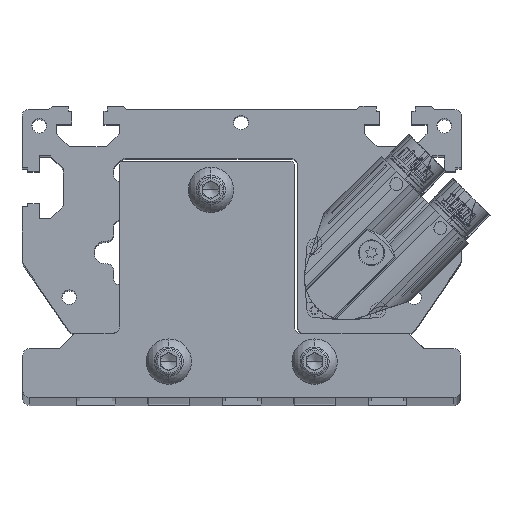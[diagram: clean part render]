
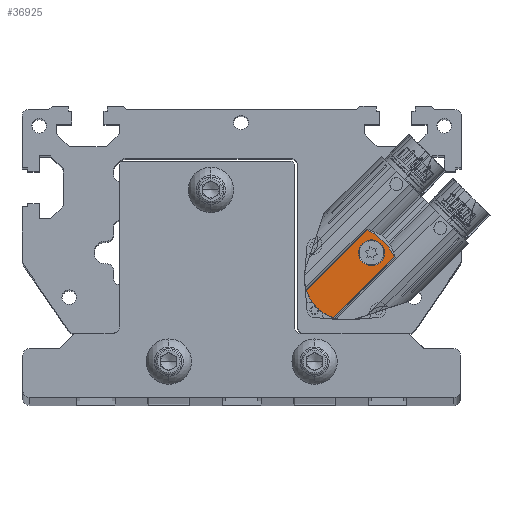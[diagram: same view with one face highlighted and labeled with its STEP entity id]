
A CAD part, top view. The second image highlights one B-rep face of the part: STEP entity #36925.
In plain terms, the highlighted planar face has unit normal (0, 0, 1).
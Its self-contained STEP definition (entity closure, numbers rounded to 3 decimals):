
#97 = EDGE_CURVE ( 'NONE', #30921, #30953, #22381, .T. ) ;
#99 = EDGE_CURVE ( 'NONE', #30953, #21910, #19927, .T. ) ;
#1862 = CARTESIAN_POINT ( 'NONE',  ( 13.735, 5.428, 18.8 ) ) ;
#1863 = DIRECTION ( 'NONE',  ( 0.707, 0.707, 0. ) ) ;
#1868 = CARTESIAN_POINT ( 'NONE',  ( 14.874, 6.567, 18.8 ) ) ;
#1869 = CARTESIAN_POINT ( 'NONE',  ( 14.421, 7.463, 18.8 ) ) ;
#1870 = CARTESIAN_POINT ( 'NONE',  ( 13.902, 8.311, 18.8 ) ) ;
#1871 = CARTESIAN_POINT ( 'NONE',  ( 12.741, 9.914, 18.8 ) ) ;
#1872 = CARTESIAN_POINT ( 'NONE',  ( 12.098, 10.67, 18.8 ) ) ;
#1873 = CARTESIAN_POINT ( 'NONE',  ( 11.037, 11.732, 18.8 ) ) ;
#1874 = CARTESIAN_POINT ( 'NONE',  ( 10.668, 12.073, 18.8 ) ) ;
#1875 = CARTESIAN_POINT ( 'NONE',  ( 9.909, 12.72, 18.8 ) ) ;
#1876 = CARTESIAN_POINT ( 'NONE',  ( 9.519, 13.027, 18.8 ) ) ;
#1877 = CARTESIAN_POINT ( 'NONE',  ( 8.312, 13.902, 18.8 ) ) ;
#1878 = CARTESIAN_POINT ( 'NONE',  ( 7.463, 14.421, 18.8 ) ) ;
#1879 = CARTESIAN_POINT ( 'NONE',  ( 6.567, 14.874, 18.8 ) ) ;
#6809 = EDGE_CURVE ( 'NONE', #31205, #31227, #29604, .T. ) ;
#6909 = EDGE_CURVE ( 'NONE', #21910, #22001, #29723, .T. ) ;
#8309 = EDGE_CURVE ( 'NONE', #30921, #22001, #29862, .T. ) ;
#8310 = EDGE_CURVE ( 'NONE', #31227, #31205, #29863, .T. ) ;
#12479 = CARTESIAN_POINT ( 'NONE',  ( 0., 0., 18.8 ) ) ;
#12480 = DIRECTION ( 'NONE',  ( 0., 0., -1. ) ) ;
#12481 = DIRECTION ( 'NONE',  ( 0.707, -0.707, 0. ) ) ;
#12482 = CARTESIAN_POINT ( 'NONE',  ( 7.778, 7.778, 18.8 ) ) ;
#12483 = DIRECTION ( 'NONE',  ( 0., 0., -1. ) ) ;
#12484 = DIRECTION ( 'NONE',  ( -0.707, -0.707, 0. ) ) ;
#17670 = PLANE ( 'NONE',  #21513 ) ;
#17672 = CARTESIAN_POINT ( 'NONE',  ( 9.581, 9.581, 18.8 ) ) ;
#17674 = DIRECTION ( 'NONE',  ( 0., 0., 1. ) ) ;
#17676 = DIRECTION ( 'NONE',  ( 0.707, -0.707, 0. ) ) ;
#18741 = CARTESIAN_POINT ( 'NONE',  ( 7.778, 7.778, 18.8 ) ) ;
#18743 = DIRECTION ( 'NONE',  ( 0., 0., -1. ) ) ;
#18744 = DIRECTION ( 'NONE',  ( -0.707, -0.707, 0. ) ) ;
#18839 = FACE_BOUND ( 'NONE', #25280, .T. ) ;
#18841 = FACE_OUTER_BOUND ( 'NONE', #25281, .T. ) ;
#19256 = CARTESIAN_POINT ( 'NONE',  ( 5.428, 13.735, 18.8 ) ) ;
#19258 = DIRECTION ( 'NONE',  ( -0.707, -0.707, 0. ) ) ;
#19927 = B_SPLINE_CURVE_WITH_KNOTS ( 'NONE', 3,
 ( #1868, #1869, #1870, #1871, #1872, #1873, #1874, #1875, #1876, #1877, #1878, #1879 ),
 .UNSPECIFIED., .F., .F.,
 ( 4, 2, 2, 2, 2, 4 ),
 ( 0., 0.003, 0.006, 0.007, 0.009, 0.012 ),
 .UNSPECIFIED. ) ;
#20022 = CARTESIAN_POINT ( 'NONE',  ( -3.968, -12.275, 18.8 ) ) ;
#20067 = CARTESIAN_POINT ( 'NONE',  ( 14.874, 6.567, 18.8 ) ) ;
#20381 = CARTESIAN_POINT ( 'NONE',  ( 4.95, 4.95, 18.8 ) ) ;
#20403 = CARTESIAN_POINT ( 'NONE',  ( 10.607, 10.607, 18.8 ) ) ;
#21513 = AXIS2_PLACEMENT_3D ( 'NONE', #17672, #17674, #17676 ) ;
#21910 = VERTEX_POINT ( 'NONE', #39489 ) ;
#22001 = VERTEX_POINT ( 'NONE', #39580 ) ;
#22381 = LINE ( 'NONE', #1862, #22382 ) ;
#22382 = VECTOR ( 'NONE', #1863, 1000. ) ;
#25280 = EDGE_LOOP ( 'NONE', ( #40860, #40861 ) ) ;
#25281 = EDGE_LOOP ( 'NONE', ( #40862, #40863, #40864, #40865 ) ) ;
#29604 = CIRCLE ( 'NONE', #30626, 4. ) ;
#29723 = LINE ( 'NONE', #19256, #29724 ) ;
#29724 = VECTOR ( 'NONE', #19258, 1000. ) ;
#29862 = CIRCLE ( 'NONE', #41749, 12.9 ) ;
#29863 = CIRCLE ( 'NONE', #41750, 4. ) ;
#30626 = AXIS2_PLACEMENT_3D ( 'NONE', #18741, #18743, #18744 ) ;
#30921 = VERTEX_POINT ( 'NONE', #20022 ) ;
#30953 = VERTEX_POINT ( 'NONE', #20067 ) ;
#31205 = VERTEX_POINT ( 'NONE', #20381 ) ;
#31227 = VERTEX_POINT ( 'NONE', #20403 ) ;
#36925 = ADVANCED_FACE ( 'NONE', ( #18839, #18841 ), #17670, .T. ) ;
#39489 = CARTESIAN_POINT ( 'NONE',  ( 6.567, 14.874, 18.8 ) ) ;
#39580 = CARTESIAN_POINT ( 'NONE',  ( -12.275, -3.968, 18.8 ) ) ;
#40860 = ORIENTED_EDGE ( 'NONE', *, *, #6809, .T. ) ;
#40861 = ORIENTED_EDGE ( 'NONE', *, *, #8310, .T. ) ;
#40862 = ORIENTED_EDGE ( 'NONE', *, *, #8309, .F. ) ;
#40863 = ORIENTED_EDGE ( 'NONE', *, *, #97, .T. ) ;
#40864 = ORIENTED_EDGE ( 'NONE', *, *, #99, .T. ) ;
#40865 = ORIENTED_EDGE ( 'NONE', *, *, #6909, .T. ) ;
#41749 = AXIS2_PLACEMENT_3D ( 'NONE', #12479, #12480, #12481 ) ;
#41750 = AXIS2_PLACEMENT_3D ( 'NONE', #12482, #12483, #12484 ) ;
